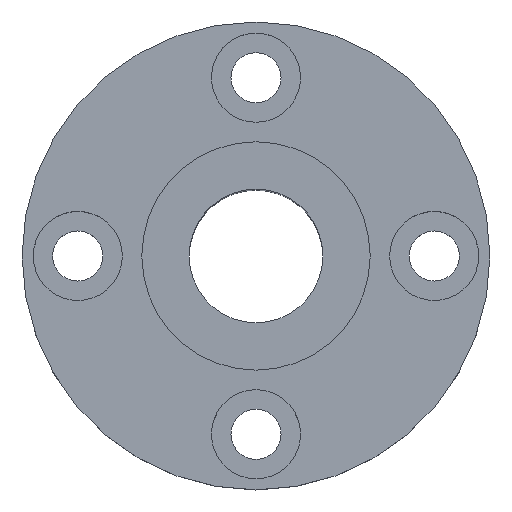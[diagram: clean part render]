
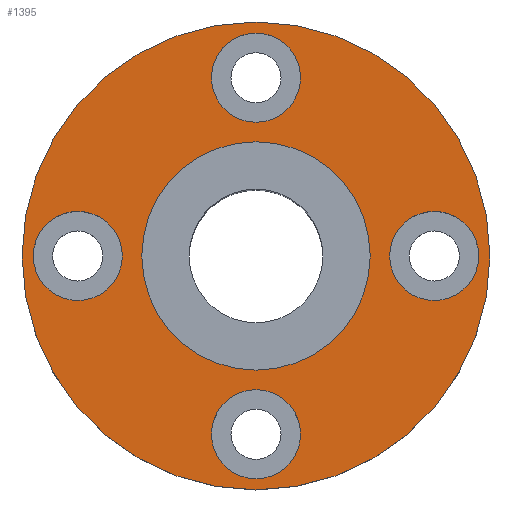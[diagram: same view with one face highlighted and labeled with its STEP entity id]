
A CAD part, top view. The second image highlights one B-rep face of the part: STEP entity #1395.
In plain terms, the highlighted planar face has unit normal (0, 0, 1).
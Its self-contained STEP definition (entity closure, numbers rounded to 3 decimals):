
#133=CARTESIAN_POINT('',(-10.25,0.,28.5));
#134=VERTEX_POINT('',#133);
#143=CARTESIAN_POINT('',(10.25,0.,28.5));
#144=VERTEX_POINT('',#143);
#145=CARTESIAN_POINT('',(0.0,0.0,28.5));
#146=DIRECTION('',(0.0,0.0,-1.0));
#147=DIRECTION('',(-1.0,0.0,0.0));
#148=AXIS2_PLACEMENT_3D('',#145,#146,#147);
#149=CIRCLE('',#148,10.25);
#150=EDGE_CURVE('',#144,#134,#149,.T.);
#217=CARTESIAN_POINT('',(-21.0,0.,28.5));
#218=VERTEX_POINT('',#217);
#227=CARTESIAN_POINT('',(21.0,0.,28.5));
#228=VERTEX_POINT('',#227);
#229=CARTESIAN_POINT('',(0.0,0.0,28.5));
#230=DIRECTION('',(0.0,0.0,-1.0));
#231=DIRECTION('',(-1.0,0.0,0.0));
#232=AXIS2_PLACEMENT_3D('',#229,#230,#231);
#233=CIRCLE('',#232,21.0);
#234=EDGE_CURVE('',#218,#228,#233,.T.);
#345=CARTESIAN_POINT('',(20.0,0.0,28.5));
#346=VERTEX_POINT('',#345);
#362=CARTESIAN_POINT('',(12.0,0.,28.5));
#363=VERTEX_POINT('',#362);
#370=CARTESIAN_POINT('',(16.0,0.0,28.5));
#371=DIRECTION('',(0.0,0.0,-1.0));
#372=DIRECTION('',(1.0,0.0,0.0));
#373=AXIS2_PLACEMENT_3D('',#370,#371,#372);
#374=CIRCLE('',#373,4.0);
#375=EDGE_CURVE('',#346,#363,#374,.T.);
#471=CARTESIAN_POINT('',(0.,20.0,28.5));
#472=VERTEX_POINT('',#471);
#488=CARTESIAN_POINT('',(0.,12.0,28.5));
#489=VERTEX_POINT('',#488);
#496=CARTESIAN_POINT('',(0.,16.0,28.5));
#497=DIRECTION('',(0.0,0.0,-1.0));
#498=DIRECTION('',(0.0,1.0,0.0));
#499=AXIS2_PLACEMENT_3D('',#496,#497,#498);
#500=CIRCLE('',#499,4.0);
#501=EDGE_CURVE('',#472,#489,#500,.T.);
#597=CARTESIAN_POINT('',(-20.0,0.,28.5));
#598=VERTEX_POINT('',#597);
#614=CARTESIAN_POINT('',(-12.0,0.,28.5));
#615=VERTEX_POINT('',#614);
#622=CARTESIAN_POINT('',(-16.0,0.,28.5));
#623=DIRECTION('',(0.0,0.0,-1.0));
#624=DIRECTION('',(-1.0,0.0,0.0));
#625=AXIS2_PLACEMENT_3D('',#622,#623,#624);
#626=CIRCLE('',#625,4.0);
#627=EDGE_CURVE('',#598,#615,#626,.T.);
#723=CARTESIAN_POINT('',(0.,-20.0,28.5));
#724=VERTEX_POINT('',#723);
#740=CARTESIAN_POINT('',(0.,-12.0,28.5));
#741=VERTEX_POINT('',#740);
#748=CARTESIAN_POINT('',(0.,-16.0,28.5));
#749=DIRECTION('',(0.0,0.0,-1.0));
#750=DIRECTION('',(0.0,-1.0,0.0));
#751=AXIS2_PLACEMENT_3D('',#748,#749,#750);
#752=CIRCLE('',#751,4.0);
#753=EDGE_CURVE('',#724,#741,#752,.T.);
#811=CARTESIAN_POINT('',(0.,-16.0,28.5));
#812=DIRECTION('',(0.0,0.0,-1.0));
#813=DIRECTION('',(0.0,-1.0,0.0));
#814=AXIS2_PLACEMENT_3D('',#811,#812,#813);
#815=CIRCLE('',#814,4.0);
#816=EDGE_CURVE('',#741,#724,#815,.T.);
#915=CARTESIAN_POINT('',(-16.0,0.,28.5));
#916=DIRECTION('',(0.0,0.0,-1.0));
#917=DIRECTION('',(-1.0,0.0,0.0));
#918=AXIS2_PLACEMENT_3D('',#915,#916,#917);
#919=CIRCLE('',#918,4.0);
#920=EDGE_CURVE('',#615,#598,#919,.T.);
#1019=CARTESIAN_POINT('',(0.,16.0,28.5));
#1020=DIRECTION('',(0.0,0.0,-1.0));
#1021=DIRECTION('',(0.0,1.0,0.0));
#1022=AXIS2_PLACEMENT_3D('',#1019,#1020,#1021);
#1023=CIRCLE('',#1022,4.0);
#1024=EDGE_CURVE('',#489,#472,#1023,.T.);
#1123=CARTESIAN_POINT('',(16.0,0.0,28.5));
#1124=DIRECTION('',(0.0,0.0,-1.0));
#1125=DIRECTION('',(1.0,0.0,0.0));
#1126=AXIS2_PLACEMENT_3D('',#1123,#1124,#1125);
#1127=CIRCLE('',#1126,4.0);
#1128=EDGE_CURVE('',#363,#346,#1127,.T.);
#1188=CARTESIAN_POINT('',(0.0,0.0,28.5));
#1189=DIRECTION('',(0.0,0.0,-1.0));
#1190=DIRECTION('',(-1.0,0.0,0.0));
#1191=AXIS2_PLACEMENT_3D('',#1188,#1189,#1190);
#1192=CIRCLE('',#1191,21.0);
#1193=EDGE_CURVE('',#228,#218,#1192,.T.);
#1306=CARTESIAN_POINT('',(0.0,0.0,28.5));
#1307=DIRECTION('',(0.0,0.0,-1.0));
#1308=DIRECTION('',(-1.0,0.0,0.0));
#1309=AXIS2_PLACEMENT_3D('',#1306,#1307,#1308);
#1310=CIRCLE('',#1309,10.25);
#1311=EDGE_CURVE('',#134,#144,#1310,.T.);
#1366=CARTESIAN_POINT('',(0.0,0.0,28.5));
#1367=DIRECTION('',(0.0,0.0,-1.0));
#1368=DIRECTION('',(-1.0,0.0,0.0));
#1369=AXIS2_PLACEMENT_3D('',#1366,#1367,#1368);
#1370=PLANE('',#1369);
#1371=ORIENTED_EDGE('',*,*,#1193,.F.);
#1372=ORIENTED_EDGE('',*,*,#234,.F.);
#1373=EDGE_LOOP('',(#1371,#1372));
#1374=FACE_OUTER_BOUND('',#1373,.T.);
#1375=ORIENTED_EDGE('',*,*,#753,.T.);
#1376=ORIENTED_EDGE('',*,*,#816,.T.);
#1377=EDGE_LOOP('',(#1375,#1376));
#1378=FACE_BOUND('',#1377,.T.);
#1379=ORIENTED_EDGE('',*,*,#627,.T.);
#1380=ORIENTED_EDGE('',*,*,#920,.T.);
#1381=EDGE_LOOP('',(#1379,#1380));
#1382=FACE_BOUND('',#1381,.T.);
#1383=ORIENTED_EDGE('',*,*,#501,.T.);
#1384=ORIENTED_EDGE('',*,*,#1024,.T.);
#1385=EDGE_LOOP('',(#1383,#1384));
#1386=FACE_BOUND('',#1385,.T.);
#1387=ORIENTED_EDGE('',*,*,#375,.T.);
#1388=ORIENTED_EDGE('',*,*,#1128,.T.);
#1389=EDGE_LOOP('',(#1387,#1388));
#1390=FACE_BOUND('',#1389,.T.);
#1391=ORIENTED_EDGE('',*,*,#150,.T.);
#1392=ORIENTED_EDGE('',*,*,#1311,.T.);
#1393=EDGE_LOOP('',(#1391,#1392));
#1394=FACE_BOUND('',#1393,.T.);
#1395=ADVANCED_FACE('',(#1374,#1378,#1382,#1386,#1390,#1394),#1370,.F.);
